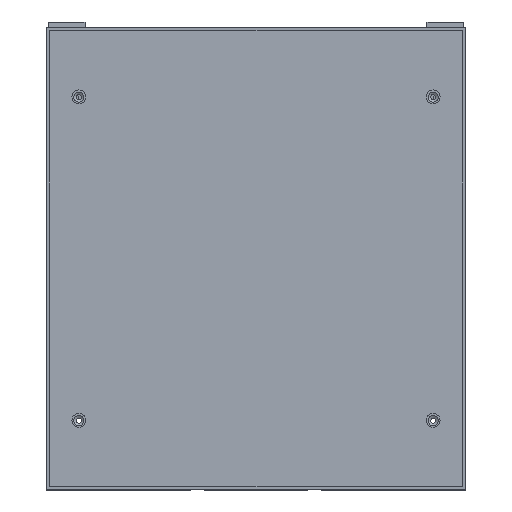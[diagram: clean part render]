
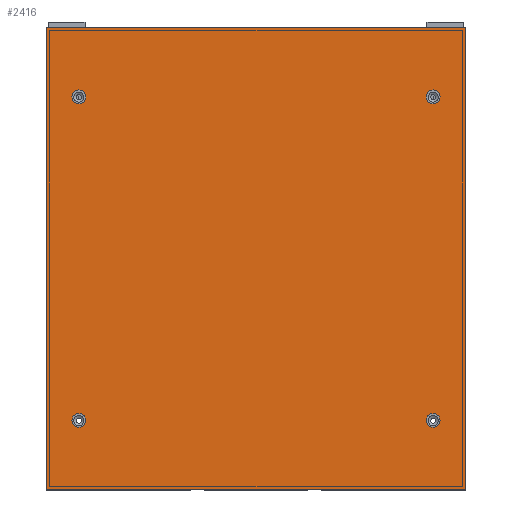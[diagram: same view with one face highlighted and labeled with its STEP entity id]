
A CAD part, top view. The second image highlights one B-rep face of the part: STEP entity #2416.
In plain terms, the highlighted planar face has unit normal (0, 0, 1).
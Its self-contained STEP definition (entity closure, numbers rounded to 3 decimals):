
#302=FACE_BOUND('',#4487,.T.);
#303=FACE_BOUND('',#4488,.T.);
#304=FACE_BOUND('',#4489,.T.);
#305=FACE_BOUND('',#4490,.T.);
#306=FACE_BOUND('',#4491,.T.);
#976=PLANE('',#16931);
#1584=CIRCLE('',#16927,2.25);
#1585=CIRCLE('',#16928,2.25);
#1586=CIRCLE('',#16929,2.25);
#1587=CIRCLE('',#16930,2.25);
#2416=ADVANCED_FACE('',(#302,#303,#304,#305,#306),#976,.F.);
#4487=EDGE_LOOP('',(#6867));
#4488=EDGE_LOOP('',(#6868));
#4489=EDGE_LOOP('',(#6869));
#4490=EDGE_LOOP('',(#6870));
#4491=EDGE_LOOP('',(#6871,#6872,#6873,#6874));
#6867=ORIENTED_EDGE('',*,*,#12634,.F.);
#6868=ORIENTED_EDGE('',*,*,#12635,.F.);
#6869=ORIENTED_EDGE('',*,*,#12636,.F.);
#6870=ORIENTED_EDGE('',*,*,#12637,.F.);
#6871=ORIENTED_EDGE('',*,*,#12309,.F.);
#6872=ORIENTED_EDGE('',*,*,#12638,.F.);
#6873=ORIENTED_EDGE('',*,*,#12228,.F.);
#6874=ORIENTED_EDGE('',*,*,#12639,.F.);
#10566=VERTEX_POINT('',#24691);
#10567=VERTEX_POINT('',#24693);
#10618=VERTEX_POINT('',#24843);
#10619=VERTEX_POINT('',#24845);
#10829=VERTEX_POINT('',#25503);
#10830=VERTEX_POINT('',#25505);
#10831=VERTEX_POINT('',#25507);
#10832=VERTEX_POINT('',#25509);
#12228=EDGE_CURVE('',#10566,#10567,#14275,.T.);
#12309=EDGE_CURVE('',#10618,#10619,#14338,.T.);
#12634=EDGE_CURVE('',#10829,#10829,#1584,.T.);
#12635=EDGE_CURVE('',#10830,#10830,#1585,.T.);
#12636=EDGE_CURVE('',#10831,#10831,#1586,.T.);
#12637=EDGE_CURVE('',#10832,#10832,#1587,.T.);
#12638=EDGE_CURVE('',#10567,#10618,#14540,.T.);
#12639=EDGE_CURVE('',#10619,#10566,#14541,.T.);
#14275=LINE('',#24692,#15453);
#14338=LINE('',#24844,#15516);
#14540=LINE('',#25510,#15718);
#14541=LINE('',#25511,#15719);
#15453=VECTOR('',#18902,1.);
#15516=VECTOR('',#19039,1.);
#15718=VECTOR('',#19741,1.);
#15719=VECTOR('',#19742,1.);
#16927=AXIS2_PLACEMENT_3D('',#25502,#19733,#19734);
#16928=AXIS2_PLACEMENT_3D('',#25504,#19735,#19736);
#16929=AXIS2_PLACEMENT_3D('',#25506,#19737,#19738);
#16930=AXIS2_PLACEMENT_3D('',#25508,#19739,#19740);
#16931=AXIS2_PLACEMENT_3D('',#25512,#19743,#19744);
#18902=DIRECTION('',(0.,1.,0.));
#19039=DIRECTION('',(0.,-1.,0.));
#19733=DIRECTION('',(0.,0.,1.));
#19734=DIRECTION('',(-1.,0.,0.));
#19735=DIRECTION('',(0.,0.,1.));
#19736=DIRECTION('',(1.,0.,0.));
#19737=DIRECTION('',(0.,0.,1.));
#19738=DIRECTION('',(-1.,0.,0.));
#19739=DIRECTION('',(0.,0.,1.));
#19740=DIRECTION('',(1.,0.,0.));
#19741=DIRECTION('',(1.,0.,0.));
#19742=DIRECTION('',(-1.,0.,0.));
#19743=DIRECTION('',(0.,0.,-1.));
#19744=DIRECTION('',(1.,0.,0.));
#24691=CARTESIAN_POINT('',(-68.,-78.,193.));
#24692=CARTESIAN_POINT('',(-68.,72.,193.));
#24693=CARTESIAN_POINT('',(-68.,72.,193.));
#24843=CARTESIAN_POINT('',(68.,72.,193.));
#24844=CARTESIAN_POINT('',(68.,72.,193.));
#24845=CARTESIAN_POINT('',(68.,-78.,193.));
#25502=CARTESIAN_POINT('',(-57.5,-55.5,193.));
#25503=CARTESIAN_POINT('',(-59.75,-55.5,193.));
#25504=CARTESIAN_POINT('',(57.5,-55.5,193.));
#25505=CARTESIAN_POINT('',(59.75,-55.5,193.));
#25506=CARTESIAN_POINT('',(57.5,49.5,193.));
#25507=CARTESIAN_POINT('',(55.25,49.5,193.));
#25508=CARTESIAN_POINT('',(-57.5,49.5,193.));
#25509=CARTESIAN_POINT('',(-55.25,49.5,193.));
#25510=CARTESIAN_POINT('',(68.,72.,193.));
#25511=CARTESIAN_POINT('',(68.,-78.,193.));
#25512=CARTESIAN_POINT('',(0.,-3.,193.));
